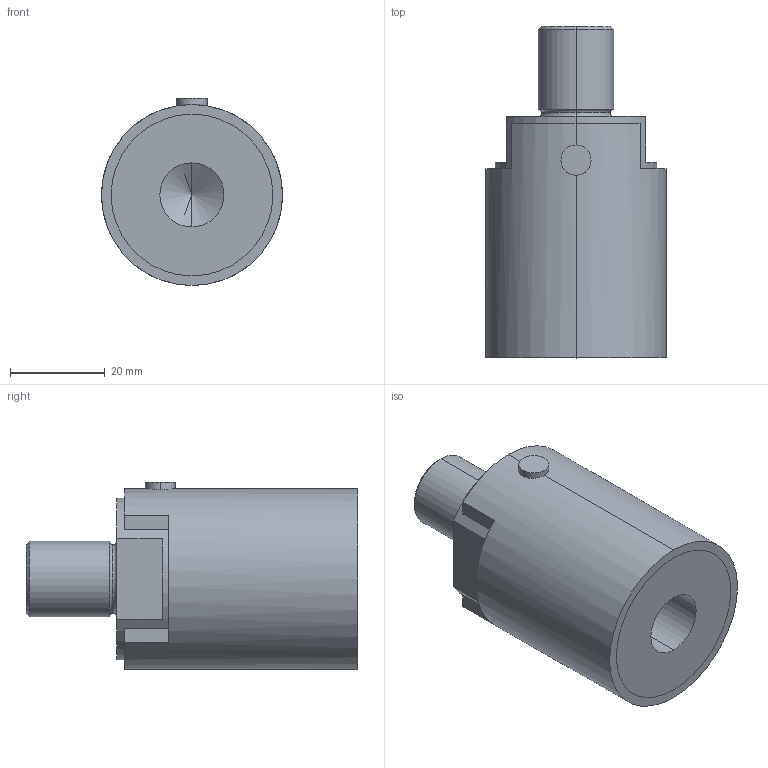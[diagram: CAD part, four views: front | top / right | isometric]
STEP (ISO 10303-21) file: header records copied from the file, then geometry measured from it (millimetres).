
FILE_DESCRIPTION (( 'STEP AP203' ), '1' );
FILE_NAME ('FINAL ASBY SS1295-1K.STEP', '2022-12-08T14:18:39', ( '' ), ( '' ), 'SwSTEP 2.0', 'SolidWorks 2008', '' );
FILE_SCHEMA (( 'CONFIG_CONTROL_DESIGN' ));
Length unit declared in the file: inch
Products named in the file (3): SS1122-5K; SS1199-1K Sleeve; FINAL ASBY SS1295-1K
Assembly tree (2 placements, depth 2):
  FINAL ASBY SS1295-1K
    SS1199-1K Sleeve
    SS1122-5K
Bounding box: 38.1 x 69.85 x 39.37 mm (x, y, z)
Volume: 56890.5 mm3; surface area: 19813.6 mm2
Topology: 2 solids, 2 shells, 37 faces, 91 edges, 57 vertices
Faces by surface type: plane 17, cylinder 12, torus 4, cone 4
Entity records: 1466 total; most frequent: CARTESIAN_POINT 256, DIRECTION 213, ORIENTED_EDGE 178, EDGE_CURVE 89, AXIS2_PLACEMENT_3D 86, VERTEX_POINT 57, CIRCLE 44, VECTOR 41
